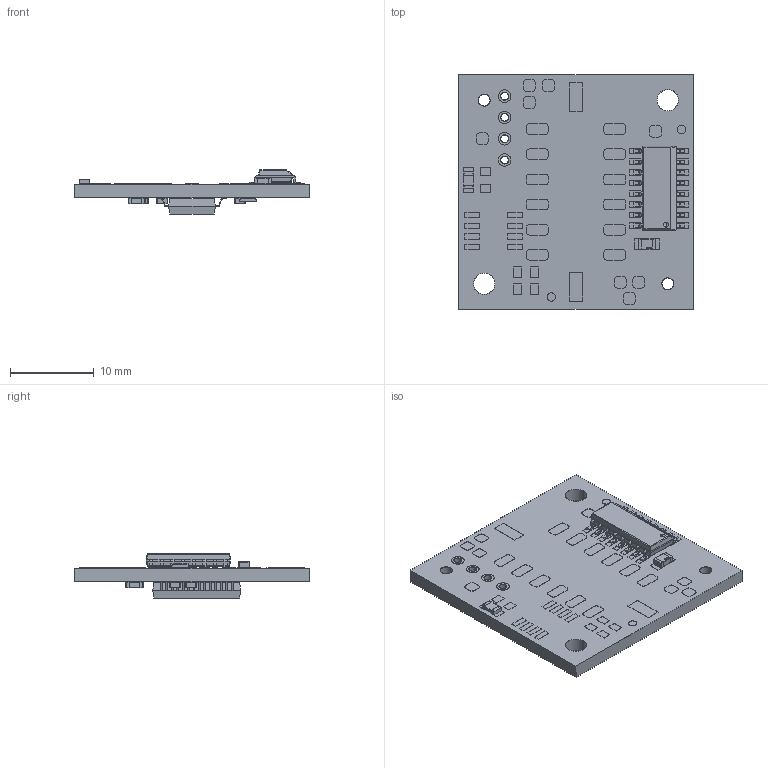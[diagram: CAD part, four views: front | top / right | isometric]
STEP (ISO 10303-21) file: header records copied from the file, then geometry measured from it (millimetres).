
FILE_DESCRIPTION (( 'STEP AP214' ), '1' );
FILE_NAME ('RMB28SSI_INC_AM4096_MODM368.STEP', '2019-12-04T15:03:26', ( '' ), ( '' ), 'SwSTEP 2.0', 'SolidWorks 2016', '' );
FILE_SCHEMA (( 'AUTOMOTIVE_DESIGN' ));
Length unit declared in the file: millimetre
Products named in the file (1): RMB28SSI_INC_AM4096_MODM368
Bounding box: 28 x 28 x 5.27 mm (x, y, z)
Volume: 1440.1 mm3; surface area: 2803.3 mm2
Topology: 184 solids, 184 shells, 2765 faces, 6819 edges, 4417 vertices
Faces by surface type: plane 1846, cylinder 487, bspline 420, sphere 12
Entity records: 142939 total; most frequent: CARTESIAN_POINT 47972, ORIENTED_EDGE 13504, DIRECTION 11293, EDGE_CURVE 6752, LINE 5035, VECTOR 5035, VERTEX_POINT 4416, AXIS2_PLACEMENT_3D 3129
